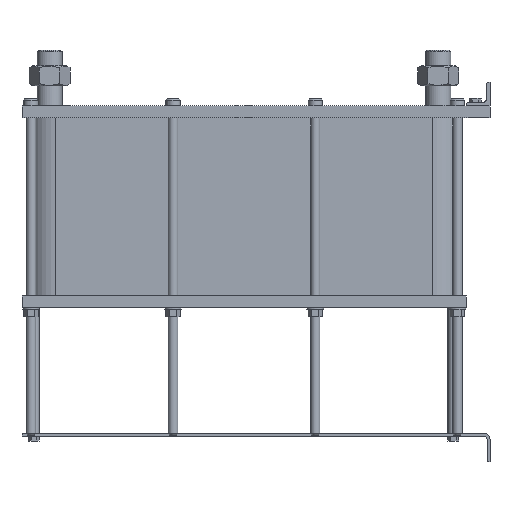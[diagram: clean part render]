
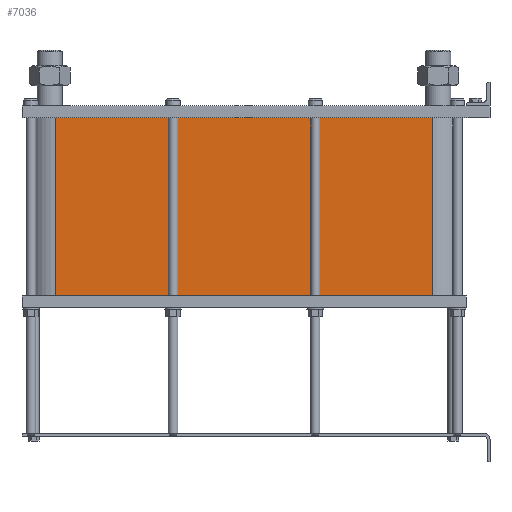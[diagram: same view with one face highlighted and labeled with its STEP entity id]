
A CAD part, left-side view. The second image highlights one B-rep face of the part: STEP entity #7036.
In plain terms, the highlighted planar face has unit normal (-1, 0, 0).
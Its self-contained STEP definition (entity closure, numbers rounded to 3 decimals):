
#999=LINE('',#15640,#1553);
#1031=LINE('',#15723,#1585);
#1032=LINE('',#15726,#1586);
#1033=LINE('',#15727,#1587);
#1553=VECTOR('',#9658,10.);
#1585=VECTOR('',#9736,10.);
#1586=VECTOR('',#9741,10.);
#1587=VECTOR('',#9742,10.);
#2117=FACE_OUTER_BOUND('',#2671,.T.);
#2671=EDGE_LOOP('',(#6246,#6247,#6248,#6249));
#3527=VERTEX_POINT('',#15634);
#3529=VERTEX_POINT('',#15638);
#3556=VERTEX_POINT('',#15720);
#3557=VERTEX_POINT('',#15722);
#4425=EDGE_CURVE('',#3529,#3527,#999,.T.);
#4466=EDGE_CURVE('',#3557,#3556,#1031,.T.);
#4468=EDGE_CURVE('',#3527,#3556,#1032,.T.);
#4469=EDGE_CURVE('',#3557,#3529,#1033,.T.);
#6246=ORIENTED_EDGE('',*,*,#4468,.F.);
#6247=ORIENTED_EDGE('',*,*,#4425,.F.);
#6248=ORIENTED_EDGE('',*,*,#4469,.F.);
#6249=ORIENTED_EDGE('',*,*,#4466,.T.);
#6608=PLANE('',#7812);
#7036=ADVANCED_FACE('',(#2117),#6608,.T.);
#7812=AXIS2_PLACEMENT_3D('',#15725,#9739,#9740);
#9658=DIRECTION('',(0.,0.,-1.));
#9736=DIRECTION('',(0.,0.,-1.));
#9739=DIRECTION('center_axis',(-1.,0.,0.));
#9740=DIRECTION('ref_axis',(0.,1.,0.));
#9741=DIRECTION('',(0.,1.,0.));
#9742=DIRECTION('',(0.,-1.,0.));
#15634=CARTESIAN_POINT('',(-72.,97.5,-300.7));
#15638=CARTESIAN_POINT('',(-72.,97.5,0.));
#15640=CARTESIAN_POINT('',(-72.,97.5,0.));
#15720=CARTESIAN_POINT('',(-72.,733.5,-300.7));
#15722=CARTESIAN_POINT('',(-72.,733.5,0.));
#15723=CARTESIAN_POINT('',(-72.,733.5,0.));
#15725=CARTESIAN_POINT('Origin',(-72.,97.5,0.));
#15726=CARTESIAN_POINT('',(-72.,256.5,-300.7));
#15727=CARTESIAN_POINT('',(-72.,733.5,0.));
